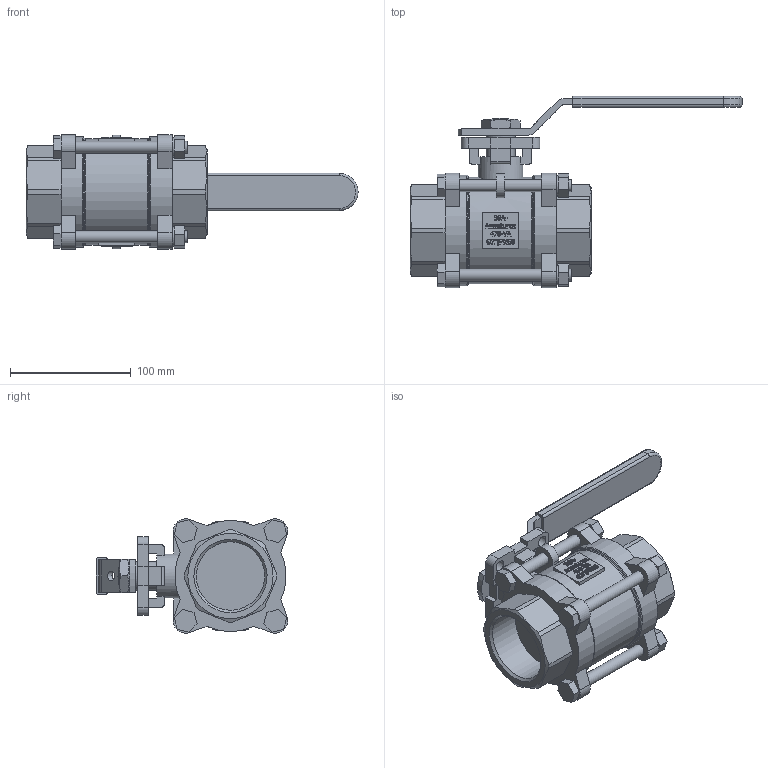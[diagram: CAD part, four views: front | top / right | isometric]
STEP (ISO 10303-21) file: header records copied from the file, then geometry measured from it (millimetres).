
FILE_DESCRIPTION((''),'2;1');
FILE_NAME('K:\Inventor\1 Artikel\11) Muffen-Kugelhähne\11a) manuell\Econosto\470-VA, 7444ISO\470-VA, G2\470-VA, G2, 3D\470-VA, G2, PN68, HH, 3D.stp','2019-10-24T13:48:31',('claudia'),(''),'Autodesk Inventor 2013','Autodesk Inventor 2013','');
FILE_SCHEMA(('AUTOMOTIVE_DESIGN { 1 0 10303 214 1 1 1 1 }'));
Length unit declared in the file: millimetre
Products named in the file (1): Bauteil1
Bounding box: 275 x 158.47 x 94.75 mm (x, y, z)
Volume: 873415.1 mm3; surface area: 120044.8 mm2
Topology: 1 solids, 1 shells, 1353 faces, 3663 edges, 2433 vertices
Faces by surface type: plane 814, bspline 451, cylinder 64, cone 18, torus 6
Full cylindrical faces by diameter (mm): 7 x4, 8 x2, 9 x4, 10 x8, 10.5 x2, 16 x4, 24 x1, 37 x1, 40 x1, 56.656 x2, 88 x1, 92 x2
Entity records: 45640 total; most frequent: CARTESIAN_POINT 14777, ORIENTED_EDGE 7216, DIRECTION 4645, EDGE_CURVE 3608, VECTOR 2457, LINE 2457, VERTEX_POINT 2421, EDGE_LOOP 1557
